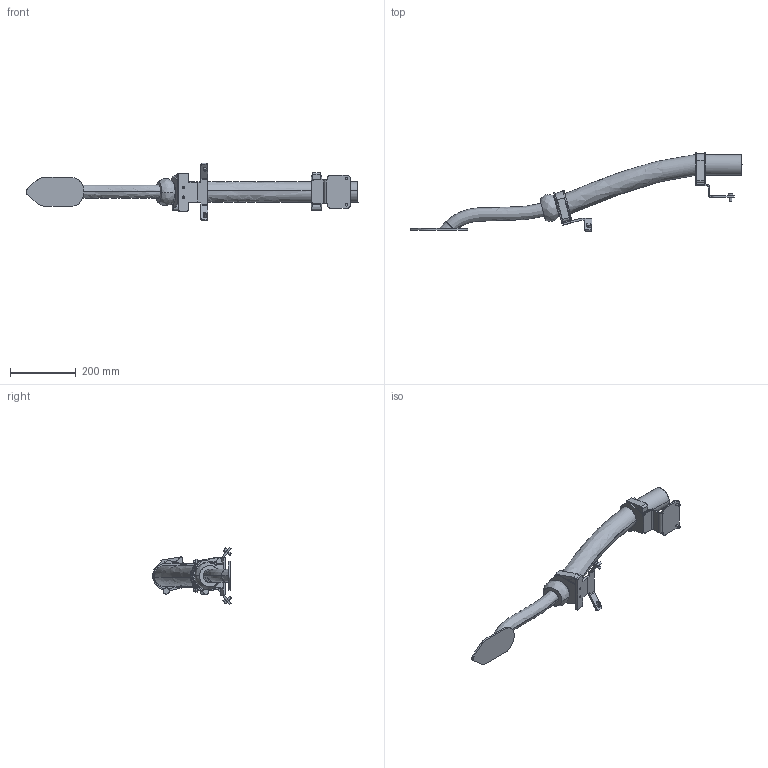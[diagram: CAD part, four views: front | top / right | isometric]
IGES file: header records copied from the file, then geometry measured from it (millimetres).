
Start section: SolidWorks IGES file using analytic representation for surfaces
Global section: file name: C:\DATA\SAP_DOC\LW\IRB 6730\IRB6730-MH3_240kg-290_OC_01_SW_J\Export\IRB6730-MH3_240kg-290_OC_01_IGES_J\IRB6730-MH3_240kg-290_OC_00_LINK04_CABLE.igs; native system: SolidWorks 2024; preprocessor: SolidWorks 2024; author: SEJOVAS3; date: 260526.113524; units: millimetre
Bounding box: 1007.81 x 238.88 x 174.65 mm (x, y, z)
Surface area: 283113.1 mm2 (no closed solid volume)
Topology: 0 solids, 0 shells, 282 faces, 3892 edges, 3892 vertices
Faces by surface type: bspline 191, revolution 91
